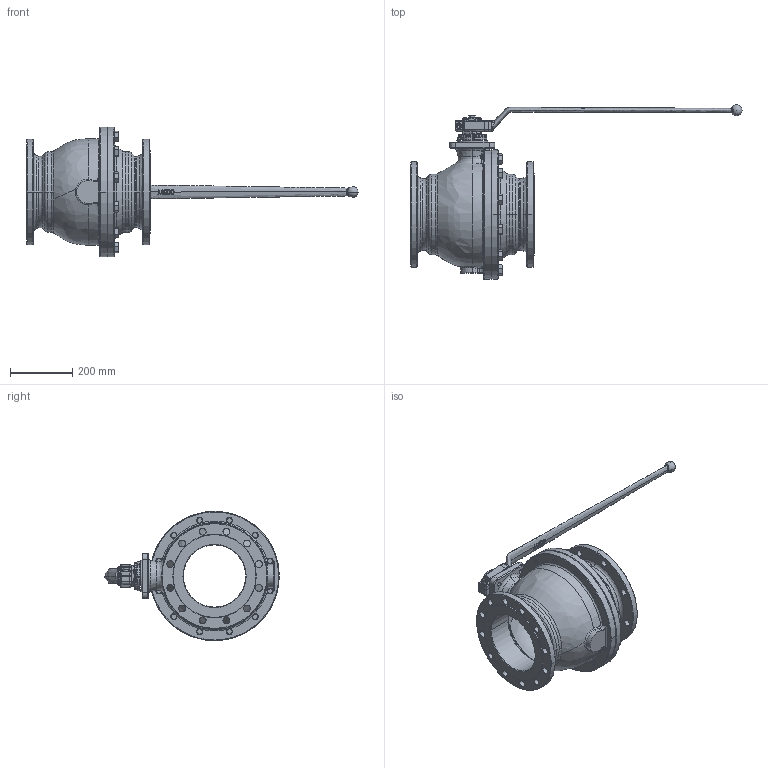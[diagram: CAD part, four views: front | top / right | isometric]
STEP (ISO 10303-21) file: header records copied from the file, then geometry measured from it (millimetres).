
FILE_DESCRIPTION (( 'STEP AP214' ), '1' );
FILE_NAME ('FIG 516 - DN200 eje libre.STEP', '2016-10-04T14:52:34', ( '' ), ( '' ), 'SwSTEP 2.0', 'SolidWorks 2016', '' );
FILE_SCHEMA (( 'AUTOMOTIVE_DESIGN' ));
Length unit declared in the file: millimetre
Products named in the file (17): 00841000; 5284_46; 0516200C; M200CHST; 00840920; DIN 912 - M12 x 30; P200G (60x45x7,2)_Comprimida; 5184_07; 0516200L; 5184_08; 5184_41; EPI200Q; JT200FV (60x45x2); DIN 933 - M20 x 45_DIN 933 - M20 x 45; DIN 933 - M12 x 20_DIN 933 - M12 x 20; 5184_17; FIG 516 - DN200 eje libre
Assembly tree (31 placements, depth 2):
  FIG 516 - DN200 eje libre
    0516200C
    0516200L
    EPI200Q
    P200G (60x45x7,2)_Comprimida  x4
    00841000
    JT200FV (60x45x2)
    00840920
    5184_41
    5184_08  x2
    5284_46
    5184_07
    M200CHST
    5184_17
    DIN 933 - M12 x 20_DIN 933 - M12 x 20
    DIN 912 - M12 x 30
    DIN 933 - M20 x 45_DIN 933 - M20 x 45  x12
Bounding box: 1067.5 x 561 x 416 mm (x, y, z)
Volume: 11523035.7 mm3; surface area: 1589820.5 mm2
Topology: 31 solids, 31 shells, 1162 faces, 2734 edges, 1638 vertices
Faces by surface type: plane 362, cylinder 349, cone 233, bspline 161, torus 53, sphere 4
Entity records: 42566 total; most frequent: CARTESIAN_POINT 22994, ORIENTED_EDGE 3978, DIRECTION 3790, EDGE_CURVE 1989, AXIS2_PLACEMENT_3D 1566, VERTEX_POINT 1225, EDGE_LOOP 958, CIRCLE 878
